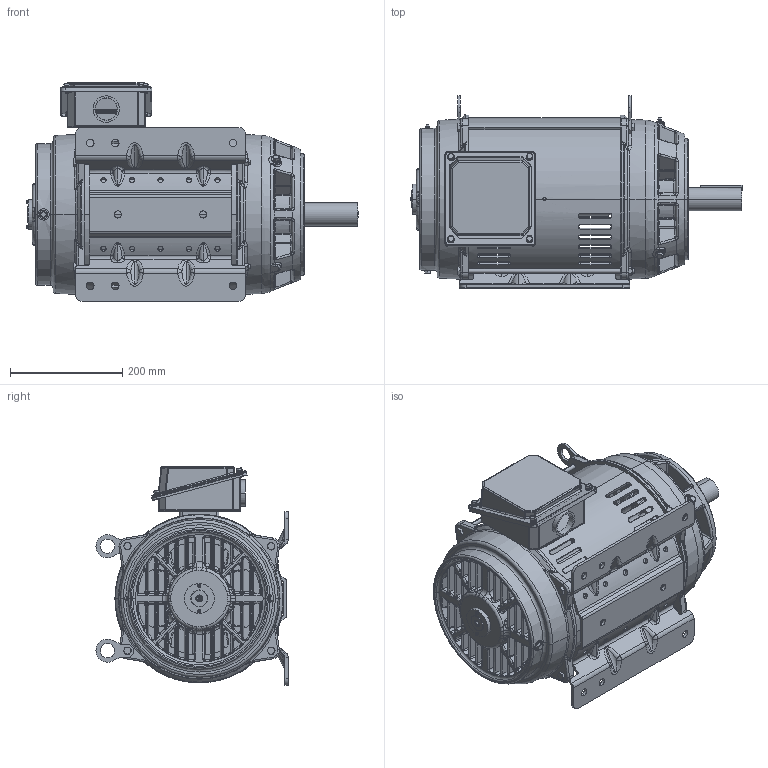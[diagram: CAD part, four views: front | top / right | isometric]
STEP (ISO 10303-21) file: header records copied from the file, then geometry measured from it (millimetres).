
FILE_DESCRIPTION (( 'STEP AP203' ), '1' );
FILE_NAME ('SS621180-100_RevB.STEP', '2022-07-14T15:17:37', ( '' ), ( '' ), 'SwSTEP 2.0', 'SolidWorks 2021', '' );
FILE_SCHEMA (( 'CONFIG_CONTROL_DESIGN' ));
Products named in the file (1): SS621180-100_RevB
Bounding box: 590.59 x 341.82 x 388.85 mm (x, y, z)
Volume: 7064137.3 mm3; surface area: 1792051.8 mm2
Topology: 44 solids, 44 shells, 3525 faces, 9032 edges, 5339 vertices
Faces by surface type: cylinder 1156, bspline 902, plane 728, cone 339, torus 321, sphere 79
Entity records: 176290 total; most frequent: CARTESIAN_POINT 99906, ORIENTED_EDGE 17586, DIRECTION 14079, EDGE_CURVE 8793, AXIS2_PLACEMENT_3D 5714, VERTEX_POINT 5335, EDGE_LOOP 3836, FACE_OUTER_BOUND 3525
